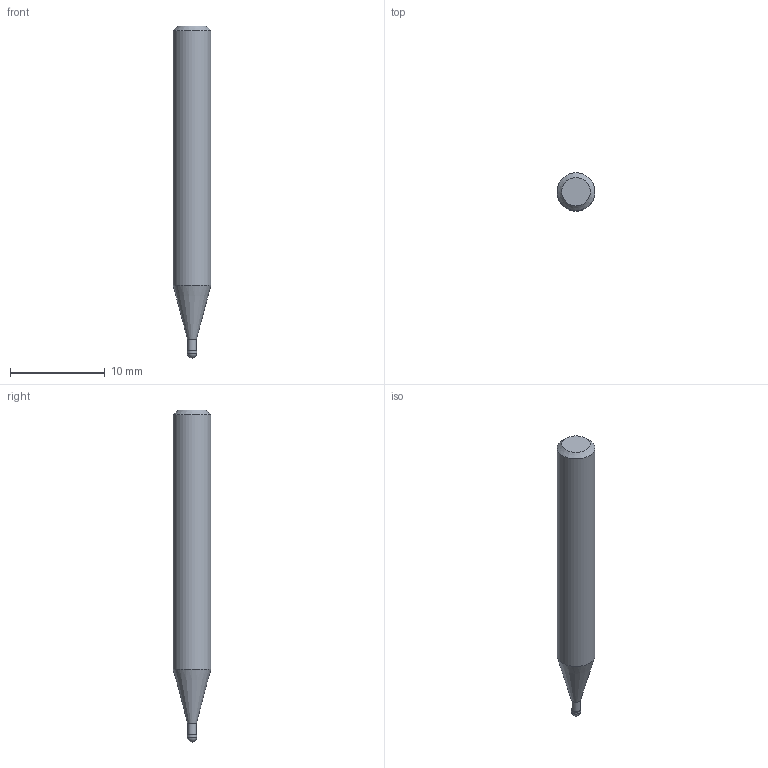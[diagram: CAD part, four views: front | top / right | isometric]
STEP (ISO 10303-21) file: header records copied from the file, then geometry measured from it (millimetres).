
FILE_DESCRIPTION((''),'2;1');
FILE_NAME('C:\Users\nsx150\AppData\Local\Temp\Mastercam 2021\QT8KEW0Y7J\TEMP.step','2021-04-23T11:21:02',(''),(''),'STEP Write','Mastercam 2021 ... CNC Software, Inc.','');
FILE_SCHEMA(('AUTOMOTIVE_DESIGN'));
Length unit declared in the file: millimetre
Products named in the file (1): None
Bounding box: 4 x 4 x 35 mm (x, y, z)
Volume: 373.9 mm3; surface area: 405.1 mm2
Topology: 2 solids, 2 shells, 9 faces, 14 edges, 8 vertices
Faces by surface type: plane 3, cylinder 3, cone 2, sphere 1
Full cylindrical faces by diameter (mm): 0.95 x1, 1 x1, 4 x1
Entity records: 211 total; most frequent: DIRECTION 36, CARTESIAN_POINT 25, AXIS2_PLACEMENT_3D 18, ORIENTED_EDGE 14, EDGE_LOOP 14, STYLED_ITEM 12, ADVANCED_FACE 9, FACE_BOUND 8
